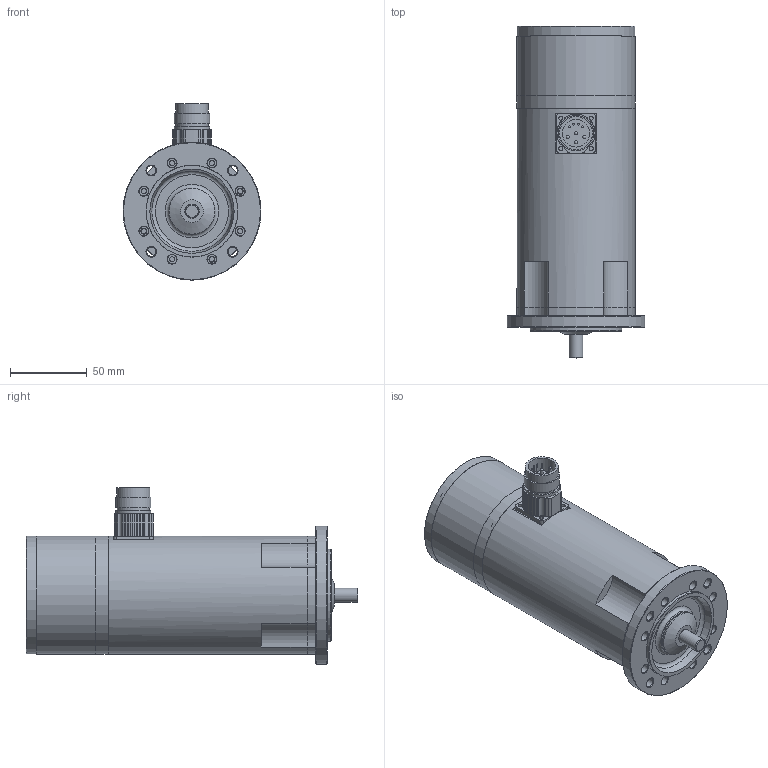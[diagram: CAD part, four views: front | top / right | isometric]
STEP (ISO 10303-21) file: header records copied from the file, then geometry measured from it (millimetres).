
FILE_DESCRIPTION(/* description */ (''),/* implementation_level */ '2;1');
FILE_NAME(/* name */ 'ksa_2x6e_mc',/* time_stamp */ '2007-03-13T07:58:33+01:00',/* author */ (''),/* organization */ (''),/* preprocessor_version */ 'ST-DEVELOPER v8',/* originating_system */ 'UNIGRAPHICS SOLUTIONS - UNIGRAPHICS 18.0',/* authorisation */ '');
FILE_SCHEMA (('AUTOMOTIVE_DESIGN { 1 2 10303 214 0 1 1 1 }'));
Length unit declared in the file: millimetre
Products named in the file (10): 064281_0; 089282_0; 014260_0; 112082_0; 06331002_0; DIN3760_org_A12x24x7_0; Rotor_SA 24.. E_0; Gehaeuse_SA 24.. E_0; 112068_0; KSA246_E-MC_0
Assembly tree (9 placements, depth 2):
  KSA246_E-MC_0
    112068_0
    Gehaeuse_SA 24.. E_0
    Rotor_SA 24.. E_0
    DIN3760_org_A12x24x7_0
    06331002_0
    112082_0
    014260_0
    089282_0
    064281_0
Bounding box: 90 x 216.5 x 115 mm (x, y, z)
Volume: 460362.1 mm3; surface area: 142261.3 mm2
Topology: 9 solids, 9 shells, 334 faces, 790 edges, 510 vertices
Faces by surface type: cylinder 170, plane 84, cone 55, torus 17, sphere 8
Full cylindrical faces by diameter (mm): 1 x4, 2 x4, 2.7 x4, 3.013 x5, 3.4 x12, 4 x1, 4.5 x8, 6 x12, 6.5 x4, 7 x1, 8 x8, 8.52 x1, 8.9 x1, 9 x1, 12 x2, 12.3 x1, 15 x1, 18 x1, 20 x3, 21 x2, 21.5 x1, 23 x3, 24 x2, 26 x1, 28 x1, 30 x2, 52 x1, 56 x1, 57 x2, 58 x1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
Entity records: 8802 total; most frequent: DIRECTION 1658, CARTESIAN_POINT 1411, ORIENTED_EDGE 1084, AXIS2_PLACEMENT_3D 780, EDGE_LOOP 641, EDGE_CURVE 542, VERTEX_POINT 449, CIRCLE 436
